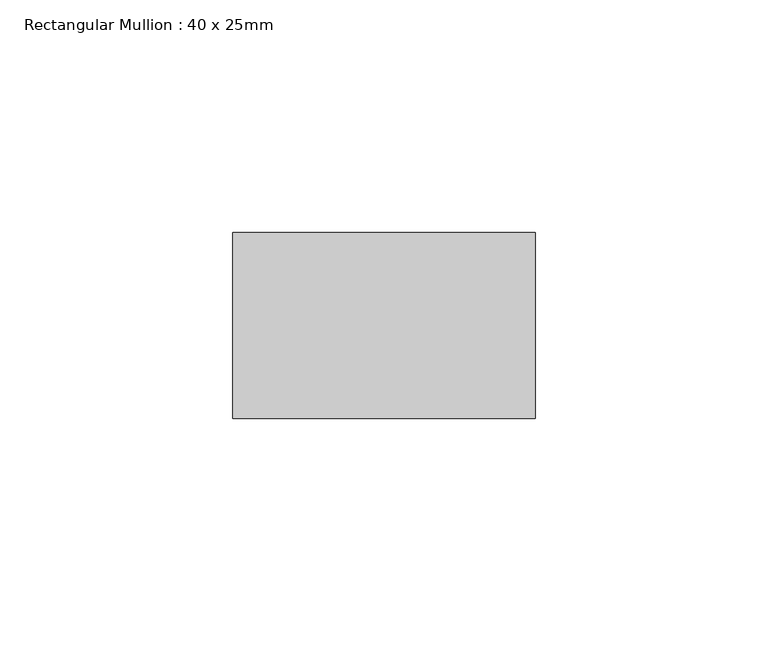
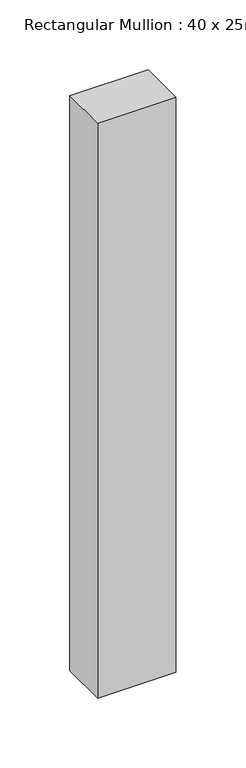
"""IFC4 building model written with IfcOpenShell, lengths in millimetres: member geometry, Rectangular Mullion : 40 x 25mm."""

from ifc_helpers import new_model, si_unit, frame, origin, place, context, project, spatial, polyline, outline, extrude, source, transform, mapped, element, save


def rectangular_mullion_40_x_25mm_6f90018d(model_context):
    return source(origin(), model_context, "Body", "SweptSolid", [
        extrude(outline(polyline([(0.0, -20.0), (0.0, -60.0), (-65.0, -60.0), (-65.0, -20.0), (0.0, -20.0)])), frame((0.0, 0.0, -503.8149668), z_axis=(0.0, 0.0, 1.0), x_axis=(1.0, 0.0, 0.0)), (0.0, 0.0, 1.0), 503.8149668),
    ])


if __name__ == "__main__":
    model = new_model("IFC4")
    model_context = context("Model", 3, world=origin())
    ifc_project = project(units=[si_unit("LENGTHUNIT", "METRE", prefix="MILLI")], contexts=[model_context])
    site = spatial("IfcSite", under=ifc_project)
    building = spatial("IfcBuilding", under=site)
    placement = place(None, origin())
    rectangular_mullion_40_x_25mm_shape = rectangular_mullion_40_x_25mm_6f90018d(model_context)
    element("IfcMember", 1, ObjectType="Rectangular Mullion : 40 x 25mm", at=placement, inside=building, context=model_context, shape_type="MappedRepresentation", body=[
        mapped(rectangular_mullion_40_x_25mm_shape, transform((0.0, 0.0, 0.0), x_axis=(1.0, 0.0, 0.0), y_axis=(0.0, 1.0, 0.0), z_axis=(0.0, 0.0, 1.0))),
    ])
    save(model, "model.ifc")
